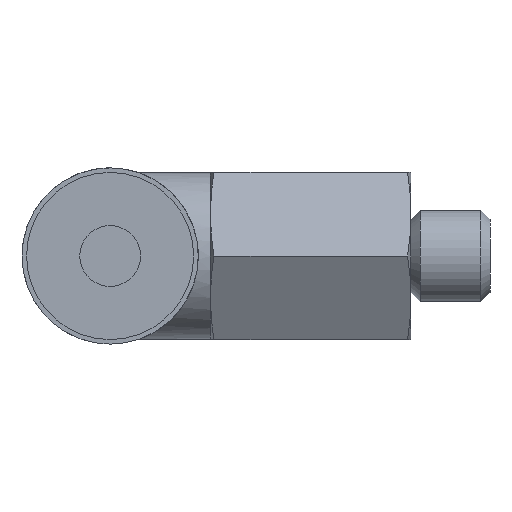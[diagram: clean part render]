
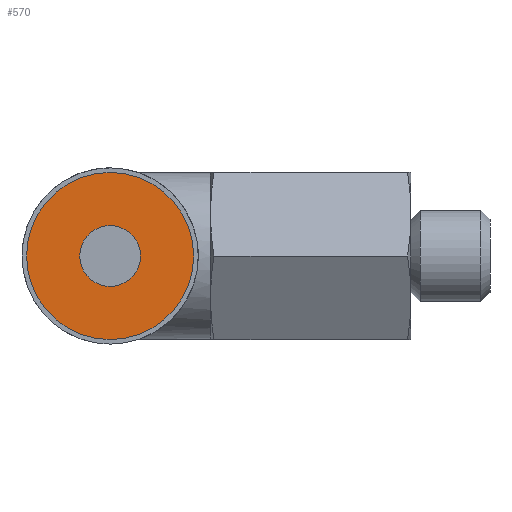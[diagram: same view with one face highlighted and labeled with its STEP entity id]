
A CAD part, left-side view. The second image highlights one B-rep face of the part: STEP entity #570.
In plain terms, the highlighted planar face has unit normal (-1, 0, 0).
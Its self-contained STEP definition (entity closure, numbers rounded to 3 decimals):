
#40=PLANE('',#652);
#220=ORIENTED_EDGE('',*,*,#308,.F.);
#221=ORIENTED_EDGE('',*,*,#309,.F.);
#308=EDGE_CURVE('',#360,#360,#394,.T.);
#309=EDGE_CURVE('',#361,#361,#395,.T.);
#360=VERTEX_POINT('',#1074);
#361=VERTEX_POINT('',#1076);
#394=CIRCLE('',#653,2.75);
#395=CIRCLE('',#654,1.);
#442=EDGE_LOOP('',(#220));
#443=EDGE_LOOP('',(#221));
#504=FACE_BOUND('',#442,.T.);
#505=FACE_BOUND('',#443,.T.);
#570=ADVANCED_FACE('',(#504,#505),#40,.F.);
#652=AXIS2_PLACEMENT_3D('',#1072,#796,#797);
#653=AXIS2_PLACEMENT_3D('',#1073,#798,#799);
#654=AXIS2_PLACEMENT_3D('',#1075,#800,#801);
#796=DIRECTION('',(1.,0.,0.));
#797=DIRECTION('',(0.,0.,-1.));
#798=DIRECTION('',(1.,0.,0.));
#799=DIRECTION('',(0.,0.,-1.));
#800=DIRECTION('',(-1.,0.,0.));
#801=DIRECTION('',(0.,1.,0.));
#1072=CARTESIAN_POINT('',(-12.6,9.9,0.));
#1073=CARTESIAN_POINT('',(-12.6,9.9,0.));
#1074=CARTESIAN_POINT('',(-12.6,9.9,-2.75));
#1075=CARTESIAN_POINT('',(-12.6,9.9,0.));
#1076=CARTESIAN_POINT('',(-12.6,10.9,0.));
